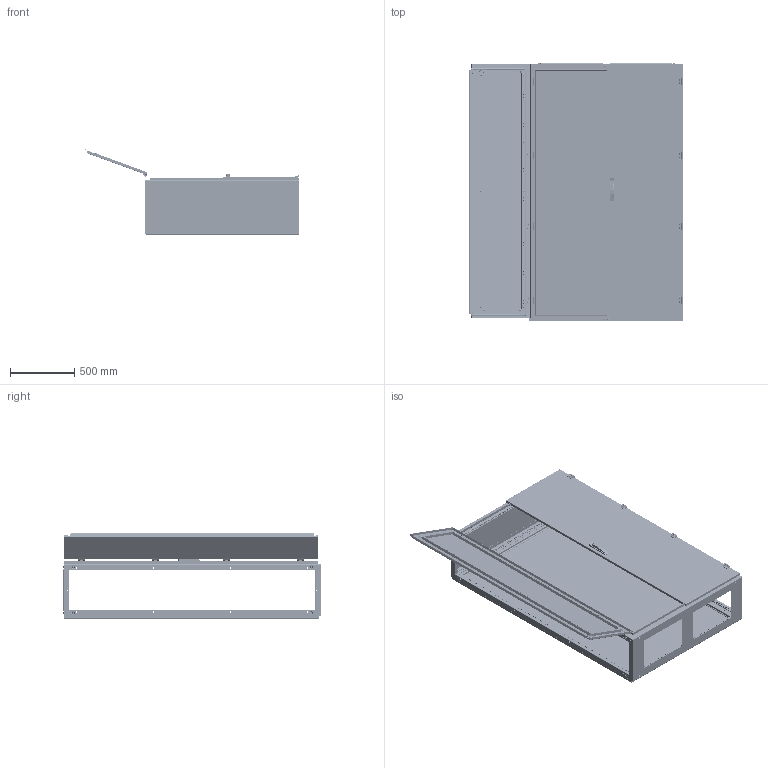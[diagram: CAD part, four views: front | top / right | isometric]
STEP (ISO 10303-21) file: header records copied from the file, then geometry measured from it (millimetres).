
FILE_DESCRIPTION (( 'STEP AP214' ), '1' );
FILE_NAME ('QA201204.step', '2011-08-11T11:22:57', ( 'Radek Veselý' ), ( 'Siemens and Partners' ), 'SwSTEP 2.0', 'SolidWorks 2006303', '' );
FILE_SCHEMA (( 'AUTOMOTIVE_DESIGN' ));
Length unit declared in the file: millimetre
Products named in the file (1): QA201204
Bounding box: 1668.78 x 2004.5 x 662.7 mm (x, y, z)
Volume: 15220301.5 mm3; surface area: 17678158.7 mm2
Topology: 158 solids, 158 shells, 9034 faces, 25000 edges, 16277 vertices
Faces by surface type: plane 4522, cylinder 3754, cone 442, bspline 270, torus 46
Entity records: 380433 total; most frequent: CARTESIAN_POINT 67930, DIRECTION 49717, ORIENTED_EDGE 49408, EDGE_CURVE 24704, AXIS2_PLACEMENT_3D 16872, VERTEX_POINT 16277, VECTOR 15973, LINE 15973
